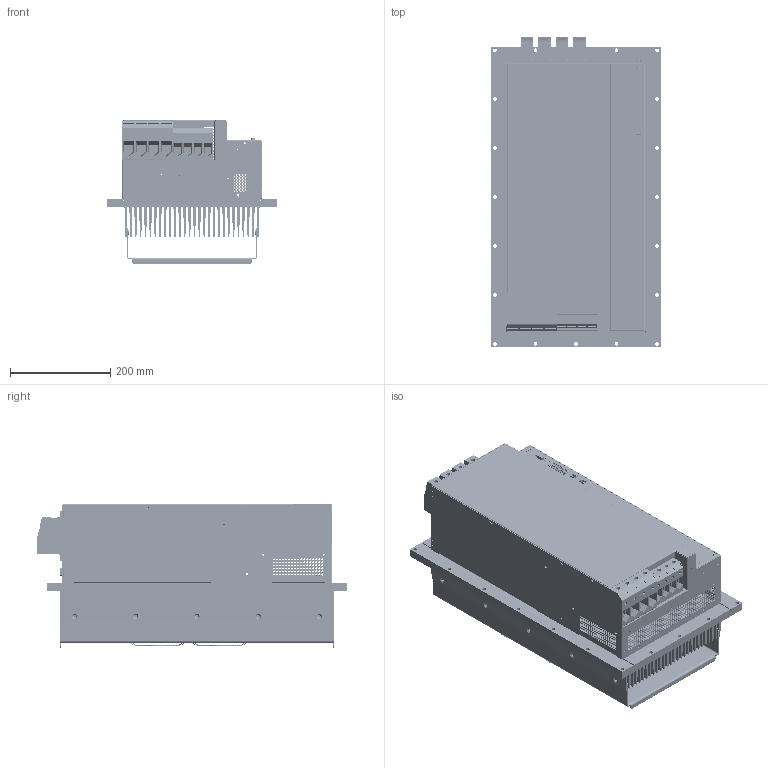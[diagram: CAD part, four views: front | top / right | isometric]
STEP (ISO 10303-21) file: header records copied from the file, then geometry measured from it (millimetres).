
FILE_DESCRIPTION (( 'STEP AP214' ), '1' );
FILE_NAME ('c-line BG7 Durchsteckvariante.STEP', '2013-08-27T12:50:50', ( '' ), ( '' ), 'SwSTEP 2.0', 'SolidWorks 2012', '' );
FILE_SCHEMA (( 'AUTOMOTIVE_DESIGN' ));
Length unit declared in the file: millimetre
Products named in the file (21): 062-04118 SCHUTZGITTER LZ30-4 119x119; 183_-01735-; 183_-01721-; 062-03948 HOCHSTR.-DURCHF. HDFK 95-F-VP Teil 1; 062-04157 HOCHSTR.-DURCHF. HDFK 95 PE; 062-04157 HOCHSTR.-DURCHF. HDFK 95 PE Teil 1; 062-04157 HOCHSTR.-DURCHF. HDFK 95 PE Teil 2; Servo one BG6_BG6A NT-klemmen; Stecker 2pol; Steuerprint CDE; 183_-01803-; 062-03944 HOCHSTROMKLEMME UKH50; 062-01331 HOCHSTROMKLEMME UKH95; 062-01349 Schutzleiterklemme USLKG 95; Schutzleiterklemme USLKG 95 Teil2; Schutzleiterklemme USLKG 95 Teil1; 183_-01646-; 183_-01777-; 183_-01778-; 183_-01761-; c-line BG7 Durchsteckvariante
Assembly tree (30 placements, depth 3):
  c-line BG7 Durchsteckvariante
    183_-01761-
    183_-01778-
    183_-01777-
    183_-01646-
    062-01349 Schutzleiterklemme USLKG 95
      Schutzleiterklemme USLKG 95 Teil1
      Schutzleiterklemme USLKG 95 Teil2
    062-01331 HOCHSTROMKLEMME UKH95  x3
    062-03944 HOCHSTROMKLEMME UKH50  x4
    183_-01803-
    Steuerprint CDE
    Servo one BG6_BG6A NT-klemmen
      Stecker 2pol  x2
    062-04157 HOCHSTR.-DURCHF. HDFK 95 PE
      062-04157 HOCHSTR.-DURCHF. HDFK 95 PE Teil 2
      062-04157 HOCHSTR.-DURCHF. HDFK 95 PE Teil 1
    062-03948 HOCHSTR.-DURCHF. HDFK 95-F-VP Teil 1  x3
    183_-01721-
    183_-01735-
    062-04118 SCHUTZGITTER LZ30-4 119x119  x3
Bounding box: 338 x 620 x 286.5 mm (x, y, z)
Volume: 9640485.7 mm3; surface area: 4096650.5 mm2
Topology: 27 solids, 27 shells, 6184 faces, 16962 edges, 11024 vertices
Faces by surface type: plane 3277, bspline 1359, cylinder 1149, cone 266, torus 126, sphere 7
Entity records: 185155 total; most frequent: CARTESIAN_POINT 53722, ORIENTED_EDGE 27628, DIRECTION 20468, EDGE_CURVE 13814, VERTEX_POINT 9004, VECTOR 8722, LINE 8722, EDGE_LOOP 7216
